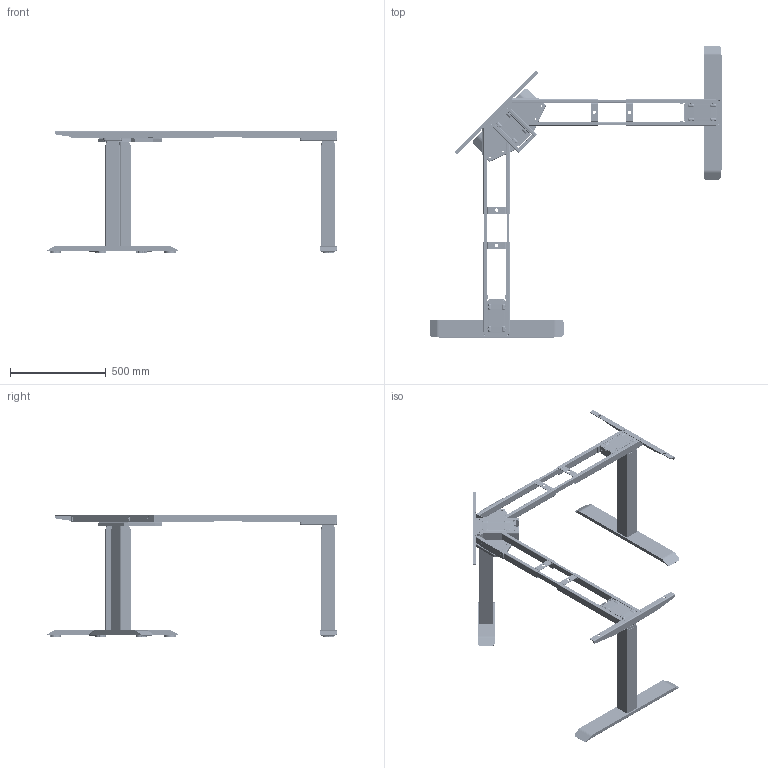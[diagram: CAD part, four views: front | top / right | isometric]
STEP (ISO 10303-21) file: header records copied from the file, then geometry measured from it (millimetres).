
FILE_DESCRIPTION(('CATIA V5 STEP Exchange'),'2;1');
FILE_NAME('F:\胡亚菊\工作\2021年设计申请单\翁丰峰\T0016\AK3YJYT-TYZF3-90-180\桌架图\AK3YJYT-TYZF3-90.stp','2021-01-28T00:49:01+00:00',('none'),('none'),'CATIA Version 5 Release 21 GA (IN-10)','CATIA V5 STEP AP203','none');
FILE_SCHEMA(('CONFIG_CONTROL_DESIGN'));
Products named in the file (16): AK2YJYT-TYZF3-90; Product3; AK-ZHHL01YJ-M220; AK-TYLJJ01-420; AK-ZHHL01J-M450X-L; AK-ZHHL01J-M450X-R; AK-BGSJ-600; TYZF3-0016; AK-ZF3-SG01-558_65LS; 1.15.046.X AK-TYZF3-XG01-526_75_下管(薄管隐藏式正装方管三节); AK-DJ01B-400X; Product1.1; Product7; 1.12.006.X AK-DJ01B-700X; 1.01.020.X AK-ZHHL01YJ-M500A-V2; AK-ZHHL02J-790B(ZHJ)
Assembly tree (73 placements, depth 5):
  AK2YJYT-TYZF3-90
    Product3
      #66  x2
      AK-ZHHL01YJ-M220
        #4224  x2
        #5045
        #6611
      AK-TYLJJ01-420
        #7804
        #10955  x2
      AK-ZHHL01J-M450X-L
        #11199
        #12162
        #12978
        #13835
        #14498  x2
        #14898
      AK-ZHHL01J-M450X-R
        #15460
        #16423
        #12978
        #13835
        #14498  x2
        #14898
      AK-BGSJ-600
        #17335
        #19317
      TYZF3-0016
        AK-ZF3-SG01-558_65LS
          #20054
          #22951
          #31704
        #34581
        1.15.046.X AK-TYZF3-XG01-526_75_下管(薄管隐藏式正装方管三节)
          #38528
          #39915
        #41001
        #86302
        #94096
      AK-DJ01B-400X
        #101911
        #102742
    Product1.1  x2
      AK-ZF3-SG01-558_65LS
        #20054
        #22951
        #31704
      #34581
      1.15.046.X AK-TYZF3-XG01-526_75_下管(薄管隐藏式正装方管三节)
        #38528
        #39915
      Product7
        1.12.006.X AK-DJ01B-700X
          #105642
          #106473
        #66  x2
      1.01.020.X AK-ZHHL01YJ-M500A-V2
        #109785  x2
        #14498  x2
        #12978
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Bounding box: 1529.99 x 1529.99 x 640.56 mm (x, y, z)
Volume: 5418177.6 mm3; surface area: 5834601.2 mm2
Topology: 82 solids, 82 shells, 9002 faces, 24841 edges, 15988 vertices
Faces by surface type: cylinder 3653, plane 3642, cone 744, bspline 525, torus 330, sphere 108
Entity records: 112919 total; most frequent: CARTESIAN_POINT 37751, ORIENTED_EDGE 17398, DIRECTION 11794, EDGE_CURVE 8699, VERTEX_POINT 5624, AXIS2_PLACEMENT_3D 4759, VECTOR 4541, LINE 4541
